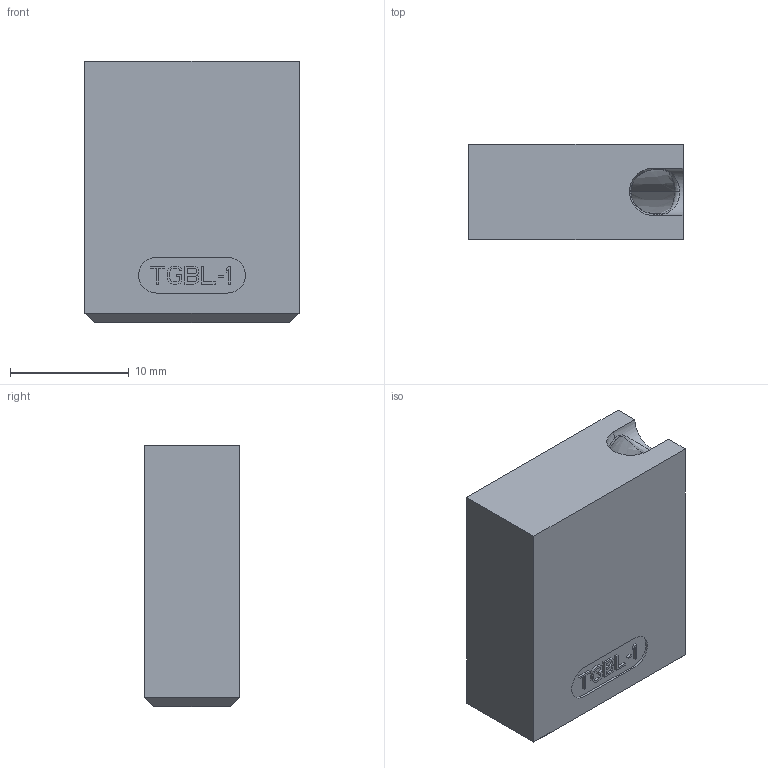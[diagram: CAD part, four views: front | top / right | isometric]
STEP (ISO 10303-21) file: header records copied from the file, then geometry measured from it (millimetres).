
FILE_DESCRIPTION((''),'2;1');
FILE_NAME('TGBL-1','2026-08-12T11:12:57',('gsawatzky'),(''),'CREO PARAMETRIC BY PTC INC, 2021304','CREO PARAMETRIC BY PTC INC, 2021304','');
FILE_SCHEMA(('AUTOMOTIVE_DESIGN { 1 0 10303 214 1 1 1 1 }'));
Length unit declared in the file: millimetre
Products named in the file (1): TGBL-1
Bounding box: 18 x 8 x 22 mm (x, y, z)
Volume: 2874 mm3; surface area: 1810.3 mm2
Topology: 1 solids, 2 shells, 187 faces, 500 edges, 323 vertices
Faces by surface type: plane 151, bspline 14, cylinder 9, sphere 5, cone 4, torus 2, extrusion 2
Entity records: 9030 total; most frequent: CARTESIAN_POINT 2853, ORIENTED_EDGE 986, DIRECTION 854, PRESENTATION_STYLE_ASSIGNMENT 497, STYLED_ITEM 497, CURVE_STYLE 495, EDGE_CURVE 495, VECTOR 428
